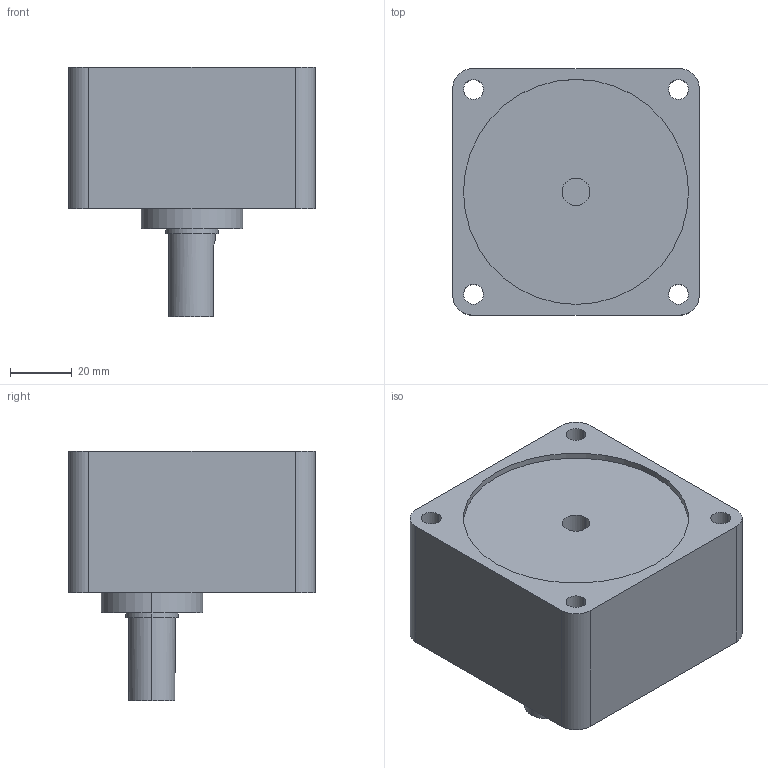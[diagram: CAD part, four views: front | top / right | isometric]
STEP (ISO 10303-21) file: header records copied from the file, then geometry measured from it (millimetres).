
FILE_DESCRIPTION (( 'STEP AP203' ), '1' );
FILE_NAME ('A1891B.step', '2024-04-24T09:15:32', ( '' ), ( '' ), 'SwSTEP 2.0', 'SolidWorks 2023', '' );
FILE_SCHEMA (( 'CONFIG_CONTROL_DESIGN' ));
Length unit declared in the file: millimetre
Products named in the file (1): A1891B
Bounding box: 80 x 80 x 81 mm (x, y, z)
Volume: 284704.6 mm3; surface area: 34028.3 mm2
Topology: 1 solids, 1 shells, 49 faces, 116 edges, 75 vertices
Faces by surface type: cylinder 29, plane 16, cone 4
Entity records: 1542 total; most frequent: DIRECTION 271, CARTESIAN_POINT 269, ORIENTED_EDGE 228, EDGE_CURVE 114, AXIS2_PLACEMENT_3D 109, VERTEX_POINT 75, EDGE_LOOP 65, CIRCLE 59
